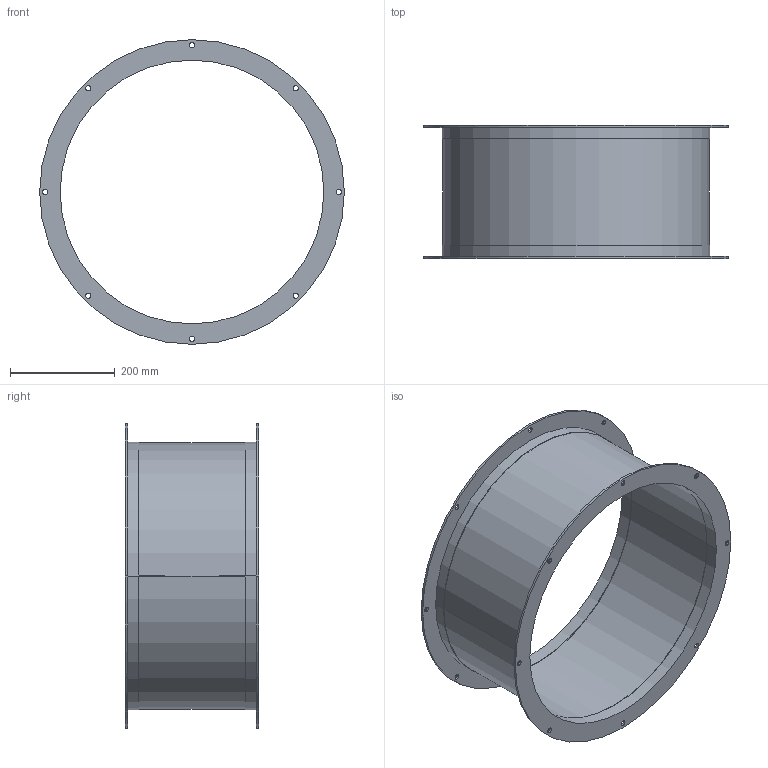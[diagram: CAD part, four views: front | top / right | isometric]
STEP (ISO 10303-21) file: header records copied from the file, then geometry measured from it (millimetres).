
FILE_DESCRIPTION(('STEP AP214'),'1');
FILE_NAME('accessory_5136835500.stp','2017-10-09T08:00:45',('TraceParts'),('TraceParts S.A.'),'Spatial InterOp 3D',' ',' ');
FILE_SCHEMA(('automotive_design'));
Length unit declared in the file: millimetre
Products named in the file (1): accessory_5136835500
Bounding box: 581 x 254 x 581 mm (x, y, z)
Volume: 1443674.9 mm3; surface area: 1069649.5 mm2
Topology: 1 solids, 1 shells, 56 faces, 144 edges, 96 vertices
Faces by surface type: cylinder 48, plane 8
Entity records: 2296 total; most frequent: DIRECTION 354, CARTESIAN_POINT 297, ORIENTED_EDGE 288, AXIS2_PLACEMENT_3D 153, EDGE_CURVE 144, EDGE_LOOP 96, VERTEX_POINT 96, CIRCLE 96
